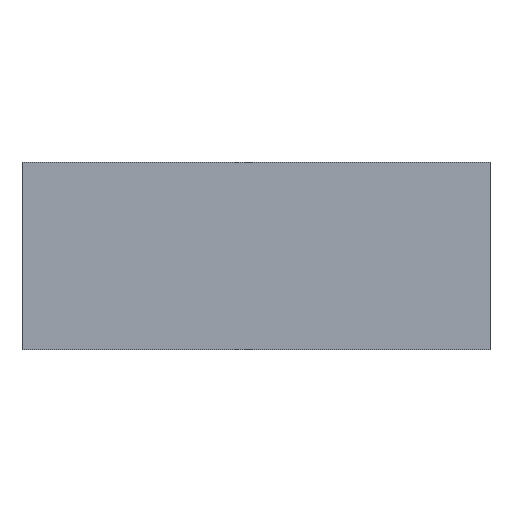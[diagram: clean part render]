
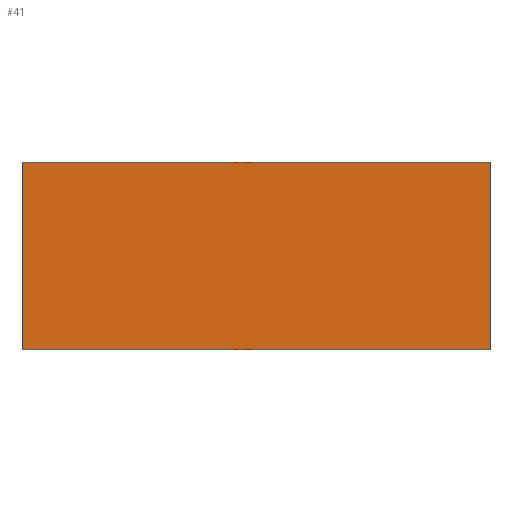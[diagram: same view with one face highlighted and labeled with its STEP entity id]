
A CAD part, top view. The second image highlights one B-rep face of the part: STEP entity #41.
In plain terms, the highlighted planar face has unit normal (0, 0, 1).
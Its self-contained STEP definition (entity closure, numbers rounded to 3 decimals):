
#8 = CARTESIAN_POINT ( 'NONE',  ( 35., 14., 4. ) ) ;
#9 = LINE ( 'NONE', #99, #224 ) ;
#13 = FACE_OUTER_BOUND ( 'NONE', #217, .T. ) ;
#14 = EDGE_CURVE ( 'NONE', #203, #70, #184, .T. ) ;
#28 = EDGE_CURVE ( 'NONE', #123, #164, #102, .T. ) ;
#41 = ADVANCED_FACE ( 'NONE', ( #13 ), #86, .F. ) ;
#47 = CARTESIAN_POINT ( 'NONE',  ( 0., 0., 4. ) ) ;
#52 = CARTESIAN_POINT ( 'NONE',  ( 0., 14., 4. ) ) ;
#70 = VERTEX_POINT ( 'NONE', #186 ) ;
#73 = DIRECTION ( 'NONE',  ( -1., 0., 0. ) ) ;
#76 = VECTOR ( 'NONE', #155, 1000. ) ;
#81 = VECTOR ( 'NONE', #221, 1000. ) ;
#82 = LINE ( 'NONE', #47, #76 ) ;
#86 = PLANE ( 'NONE',  #87 ) ;
#87 = AXIS2_PLACEMENT_3D ( 'NONE', #161, #142, #233 ) ;
#92 = ORIENTED_EDGE ( 'NONE', *, *, #227, .T. ) ;
#99 = CARTESIAN_POINT ( 'NONE',  ( 35., 0., 4. ) ) ;
#102 = LINE ( 'NONE', #147, #81 ) ;
#115 = CARTESIAN_POINT ( 'NONE',  ( 0., 0., 4. ) ) ;
#123 = VERTEX_POINT ( 'NONE', #115 ) ;
#142 = DIRECTION ( 'NONE',  ( 0., 0., -1. ) ) ;
#147 = CARTESIAN_POINT ( 'NONE',  ( 0., 0., 4. ) ) ;
#155 = DIRECTION ( 'NONE',  ( 0., -1., 0. ) ) ;
#161 = CARTESIAN_POINT ( 'NONE',  ( 0., 0., 4. ) ) ;
#164 = VERTEX_POINT ( 'NONE', #232 ) ;
#166 = EDGE_CURVE ( 'NONE', #70, #123, #82, .T. ) ;
#175 = DIRECTION ( 'NONE',  ( 0., 1., 0. ) ) ;
#181 = ORIENTED_EDGE ( 'NONE', *, *, #166, .T. ) ;
#184 = LINE ( 'NONE', #52, #190 ) ;
#186 = CARTESIAN_POINT ( 'NONE',  ( 0., 14., 4. ) ) ;
#190 = VECTOR ( 'NONE', #73, 1000. ) ;
#203 = VERTEX_POINT ( 'NONE', #8 ) ;
#214 = ORIENTED_EDGE ( 'NONE', *, *, #28, .T. ) ;
#217 = EDGE_LOOP ( 'NONE', ( #181, #214, #92, #219 ) ) ;
#219 = ORIENTED_EDGE ( 'NONE', *, *, #14, .T. ) ;
#221 = DIRECTION ( 'NONE',  ( 1., 0., 0. ) ) ;
#224 = VECTOR ( 'NONE', #175, 1000. ) ;
#227 = EDGE_CURVE ( 'NONE', #164, #203, #9, .T. ) ;
#232 = CARTESIAN_POINT ( 'NONE',  ( 35., 0., 4. ) ) ;
#233 = DIRECTION ( 'NONE',  ( -1., 0., 0. ) ) ;
